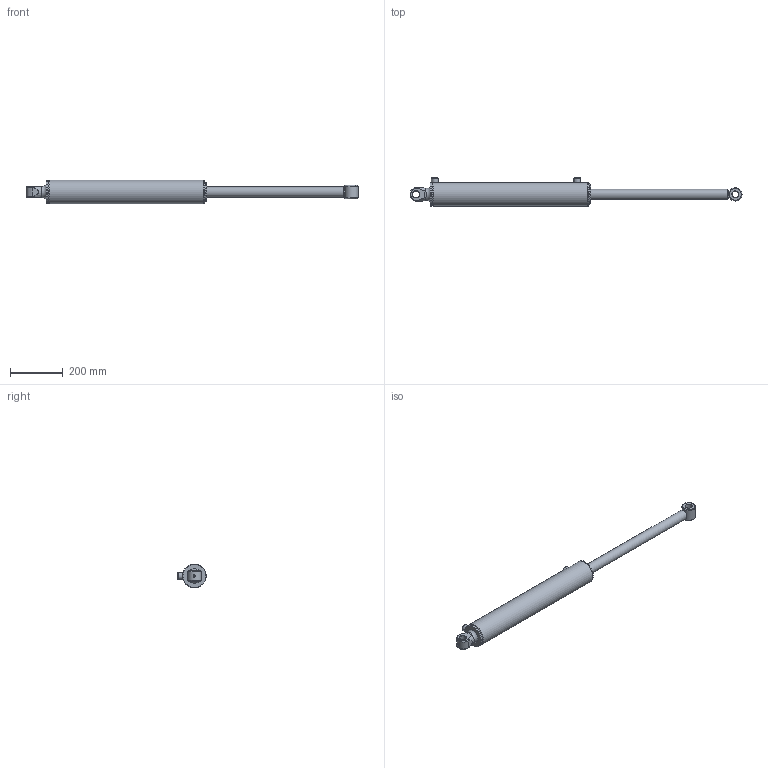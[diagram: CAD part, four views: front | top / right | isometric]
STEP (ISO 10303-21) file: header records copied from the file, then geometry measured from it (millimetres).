
FILE_DESCRIPTION(/* description */ ('Alibre Inc.'),/* implementation_level */ '2;1');
FILE_NAME(/* name */ 'export0',/* time_stamp */ '2016-08-16T10:02:00+12:00',/* author */ (''),/* organization */ (''),/* preprocessor_version */ 'ST-DEVELOPER v14',/* originating_system */ 'Alibre',/* authorisation */ '');
FILE_SCHEMA (('AUTOMOTIVE_DESIGN'));
Length unit declared in the file: centimetre
Bounding box: 1259.13 x 106.9 x 88.9 mm (x, y, z)
Volume: 2176135.7 mm3; surface area: 497736.3 mm2
Topology: 12 solids, 12 shells, 157 faces, 332 edges, 209 vertices
Faces by surface type: cylinder 61, plane 57, cone 23, torus 13, sphere 2, bspline 1
Full cylindrical faces by diameter (mm): 7 x1, 8.3 x2, 8.8 x1, 9.525 x2, 15.25 x2, 23 x1, 23.622 x1, 25 x2, 25.4 x2, 25.451 x1, 38.1 x2, 38.18 x2, 44.45 x1, 46.9 x2, 47.62 x2, 50.8 x1, 60.33 x1, 69.2 x1, 70.36 x1, 71.6 x2, 72.57 x2, 72.87 x1, 74.83 x2, 76.09 x2, 76.1 x1, 76.2 x2, 79.4 x1, 88.9 x3
Entity records: 4365 total; most frequent: CARTESIAN_POINT 1210, DIRECTION 599, ORIENTED_EDGE 456, AXIS2_PLACEMENT_3D 310, FACE_BOUND 271, EDGE_LOOP 269, EDGE_CURVE 228, VERTEX_POINT 191
